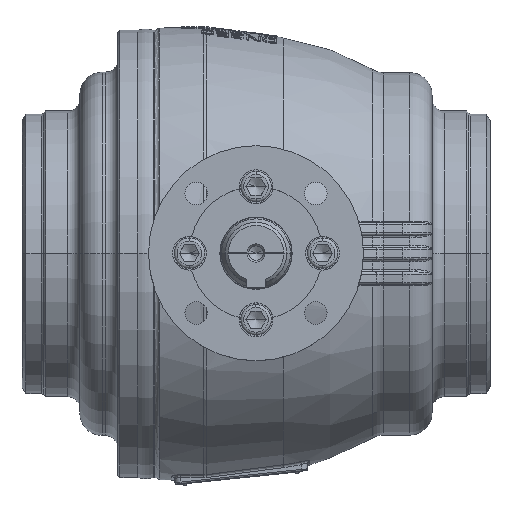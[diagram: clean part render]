
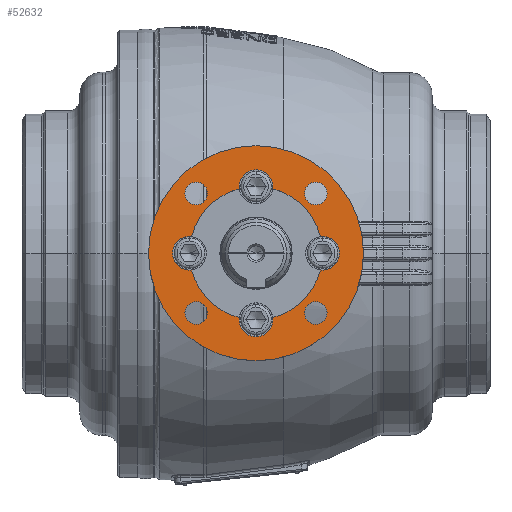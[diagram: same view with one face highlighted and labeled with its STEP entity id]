
A CAD part, top view. The second image highlights one B-rep face of the part: STEP entity #52632.
In plain terms, the highlighted planar face has unit normal (0, 0, 1).
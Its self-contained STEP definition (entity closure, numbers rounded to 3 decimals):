
#7257=CARTESIAN_POINT('',(0.,0.,346.));
#7258=DIRECTION('',(0.,0.,1.));
#7259=DIRECTION('',(1.,0.,0.));
#7260=AXIS2_PLACEMENT_3D('',#7257,#7258,#7259);
#7262=CARTESIAN_POINT('',(0.,0.,346.));
#7263=DIRECTION('',(0.,0.,-1.));
#7264=DIRECTION('',(1.,0.,0.));
#7265=AXIS2_PLACEMENT_3D('',#7262,#7263,#7264);
#7267=CARTESIAN_POINT('',(0.,65.,346.));
#7268=DIRECTION('',(0.,0.,-1.));
#7269=DIRECTION('',(1.,0.,0.));
#7270=AXIS2_PLACEMENT_3D('',#7267,#7268,#7269);
#7272=CARTESIAN_POINT('',(0.,65.,346.));
#7273=DIRECTION('',(0.,0.,-1.));
#7274=DIRECTION('',(-1.,0.,0.));
#7275=AXIS2_PLACEMENT_3D('',#7272,#7273,#7274);
#7277=CARTESIAN_POINT('',(0.,65.,346.));
#7278=DIRECTION('',(0.,0.,-1.));
#7279=DIRECTION('',(-0.992,-0.127,0.));
#7280=AXIS2_PLACEMENT_3D('',#7277,#7278,#7279);
#7282=CARTESIAN_POINT('',(-65.,0.,346.));
#7283=DIRECTION('',(0.,0.,-1.));
#7284=DIRECTION('',(-1.,0.,0.));
#7285=AXIS2_PLACEMENT_3D('',#7282,#7283,#7284);
#7287=CARTESIAN_POINT('',(-65.,0.,346.));
#7288=DIRECTION('',(0.,0.,-1.));
#7289=DIRECTION('',(0.127,-0.992,0.));
#7290=AXIS2_PLACEMENT_3D('',#7287,#7288,#7289);
#7292=CARTESIAN_POINT('',(0.,-65.,346.));
#7293=DIRECTION('',(0.,0.,-1.));
#7294=DIRECTION('',(-1.,0.,0.));
#7295=AXIS2_PLACEMENT_3D('',#7292,#7293,#7294);
#7297=CARTESIAN_POINT('',(0.,-65.,346.));
#7298=DIRECTION('',(0.,0.,-1.));
#7299=DIRECTION('',(1.,0.,0.));
#7300=AXIS2_PLACEMENT_3D('',#7297,#7298,#7299);
#7302=CARTESIAN_POINT('',(0.,-65.,346.));
#7303=DIRECTION('',(0.,0.,-1.));
#7304=DIRECTION('',(0.992,0.127,0.));
#7305=AXIS2_PLACEMENT_3D('',#7302,#7303,#7304);
#7307=CARTESIAN_POINT('',(65.,0.,346.));
#7308=DIRECTION('',(0.,0.,-1.));
#7309=DIRECTION('',(1.,0.,0.));
#7310=AXIS2_PLACEMENT_3D('',#7307,#7308,#7309);
#7312=CARTESIAN_POINT('',(65.,0.,346.));
#7313=DIRECTION('',(0.,0.,-1.));
#7314=DIRECTION('',(-0.127,0.992,0.));
#7315=AXIS2_PLACEMENT_3D('',#7312,#7313,#7314);
#7317=CARTESIAN_POINT('',(-58.336,-58.336,346.));
#7318=DIRECTION('',(0.,0.,1.));
#7319=DIRECTION('',(-1.,0.,0.));
#7320=AXIS2_PLACEMENT_3D('',#7317,#7318,#7319);
#7322=CARTESIAN_POINT('',(-58.336,-58.336,346.));
#7323=DIRECTION('',(0.,0.,1.));
#7324=DIRECTION('',(1.,0.,0.));
#7325=AXIS2_PLACEMENT_3D('',#7322,#7323,#7324);
#7327=CARTESIAN_POINT('',(58.336,-58.336,346.));
#7328=DIRECTION('',(0.,0.,1.));
#7329=DIRECTION('',(-1.,0.,0.));
#7330=AXIS2_PLACEMENT_3D('',#7327,#7328,#7329);
#7332=CARTESIAN_POINT('',(58.336,-58.336,346.));
#7333=DIRECTION('',(0.,0.,1.));
#7334=DIRECTION('',(1.,0.,0.));
#7335=AXIS2_PLACEMENT_3D('',#7332,#7333,#7334);
#7337=CARTESIAN_POINT('',(58.336,58.336,346.));
#7338=DIRECTION('',(0.,0.,1.));
#7339=DIRECTION('',(-1.,0.,0.));
#7340=AXIS2_PLACEMENT_3D('',#7337,#7338,#7339);
#7342=CARTESIAN_POINT('',(58.336,58.336,346.));
#7343=DIRECTION('',(0.,0.,1.));
#7344=DIRECTION('',(1.,0.,0.));
#7345=AXIS2_PLACEMENT_3D('',#7342,#7343,#7344);
#7347=CARTESIAN_POINT('',(-58.336,58.336,346.));
#7348=DIRECTION('',(0.,0.,1.));
#7349=DIRECTION('',(-1.,0.,0.));
#7350=AXIS2_PLACEMENT_3D('',#7347,#7348,#7349);
#7352=CARTESIAN_POINT('',(-58.336,58.336,346.));
#7353=DIRECTION('',(0.,0.,1.));
#7354=DIRECTION('',(1.,0.,0.));
#7355=AXIS2_PLACEMENT_3D('',#7352,#7353,#7354);
#29853=CARTESIAN_POINT('',(0.,0.,346.));
#29854=DIRECTION('',(0.,0.,-1.));
#29855=DIRECTION('',(-0.968,0.252,0.));
#29856=AXIS2_PLACEMENT_3D('',#29853,#29854,#29855);
#30224=CARTESIAN_POINT('',(0.,0.,346.));
#30225=DIRECTION('',(0.,0.,-1.));
#30226=DIRECTION('',(-0.252,-0.968,0.));
#30227=AXIS2_PLACEMENT_3D('',#30224,#30225,#30226);
#30250=CARTESIAN_POINT('',(0.,0.,346.));
#30251=DIRECTION('',(0.,0.,-1.));
#30252=DIRECTION('',(0.968,-0.252,0.));
#30253=AXIS2_PLACEMENT_3D('',#30250,#30251,#30252);
#30630=CARTESIAN_POINT('',(0.,0.,346.));
#30631=DIRECTION('',(0.,0.,-1.));
#30632=DIRECTION('',(0.252,0.968,0.));
#30633=AXIS2_PLACEMENT_3D('',#30630,#30631,#30632);
#34362=CARTESIAN_POINT('',(105.,0.,346.));
#34364=VERTEX_POINT('',#34362);
#34366=CARTESIAN_POINT('',(-105.,0.,346.));
#34368=VERTEX_POINT('',#34366);
#34393=CARTESIAN_POINT('',(-62.906,-16.367,346.));
#34394=CARTESIAN_POINT('',(-81.5,0.,346.));
#34395=VERTEX_POINT('',#34393);
#34396=VERTEX_POINT('',#34394);
#34397=CARTESIAN_POINT('',(-62.906,16.367,346.));
#34398=VERTEX_POINT('',#34397);
#34409=CARTESIAN_POINT('',(16.5,-65.,346.));
#34410=CARTESIAN_POINT('',(-16.5,-65.,346.));
#34411=VERTEX_POINT('',#34409);
#34412=VERTEX_POINT('',#34410);
#34413=CARTESIAN_POINT('',(-16.367,-62.906,346.));
#34414=VERTEX_POINT('',#34413);
#34415=CARTESIAN_POINT('',(16.367,-62.906,346.));
#34416=VERTEX_POINT('',#34415);
#34425=CARTESIAN_POINT('',(81.5,0.,346.));
#34426=CARTESIAN_POINT('',(62.906,-16.367,346.));
#34427=VERTEX_POINT('',#34425);
#34428=VERTEX_POINT('',#34426);
#34429=CARTESIAN_POINT('',(62.906,16.367,346.));
#34430=VERTEX_POINT('',#34429);
#34441=CARTESIAN_POINT('',(16.5,65.,346.));
#34442=CARTESIAN_POINT('',(16.367,62.906,346.));
#34443=VERTEX_POINT('',#34441);
#34444=VERTEX_POINT('',#34442);
#34445=CARTESIAN_POINT('',(-16.367,62.906,346.));
#34446=CARTESIAN_POINT('',(-16.5,65.,346.));
#34447=VERTEX_POINT('',#34445);
#34448=VERTEX_POINT('',#34446);
#34465=CARTESIAN_POINT('',(-69.336,-58.336,346.));
#34466=CARTESIAN_POINT('',(-47.336,-58.336,346.));
#34467=VERTEX_POINT('',#34465);
#34468=VERTEX_POINT('',#34466);
#34481=CARTESIAN_POINT('',(47.336,-58.336,346.));
#34482=CARTESIAN_POINT('',(69.336,-58.336,346.));
#34483=VERTEX_POINT('',#34481);
#34484=VERTEX_POINT('',#34482);
#34497=CARTESIAN_POINT('',(47.336,58.336,346.));
#34498=CARTESIAN_POINT('',(69.336,58.336,346.));
#34499=VERTEX_POINT('',#34497);
#34500=VERTEX_POINT('',#34498);
#34513=CARTESIAN_POINT('',(-69.336,58.336,346.));
#34514=CARTESIAN_POINT('',(-47.336,58.336,346.));
#34515=VERTEX_POINT('',#34513);
#34516=VERTEX_POINT('',#34514);
#52569=CARTESIAN_POINT('',(0.,0.,346.));
#52570=DIRECTION('',(0.,0.,1.));
#52571=DIRECTION('',(1.,0.,0.));
#52572=AXIS2_PLACEMENT_3D('',#52569,#52570,#52571);
#52573=PLANE('',#52572);
#52575=ORIENTED_EDGE('',*,*,#52574,.F.);
#52577=ORIENTED_EDGE('',*,*,#52576,.T.);
#52578=EDGE_LOOP('',(#52575,#52577));
#52579=FACE_OUTER_BOUND('',#52578,.F.);
#52580=ORIENTED_EDGE('',*,*,#52551,.F.);
#52582=ORIENTED_EDGE('',*,*,#52581,.F.);
#52583=ORIENTED_EDGE('',*,*,#52558,.F.);
#52585=ORIENTED_EDGE('',*,*,#52584,.F.);
#52587=ORIENTED_EDGE('',*,*,#52586,.F.);
#52589=ORIENTED_EDGE('',*,*,#52588,.F.);
#52591=ORIENTED_EDGE('',*,*,#52590,.F.);
#52593=ORIENTED_EDGE('',*,*,#52592,.F.);
#52595=ORIENTED_EDGE('',*,*,#52594,.F.);
#52597=ORIENTED_EDGE('',*,*,#52596,.F.);
#52599=ORIENTED_EDGE('',*,*,#52598,.F.);
#52601=ORIENTED_EDGE('',*,*,#52600,.F.);
#52603=ORIENTED_EDGE('',*,*,#52602,.F.);
#52605=ORIENTED_EDGE('',*,*,#52604,.F.);
#52606=EDGE_LOOP('',(#52580,#52582,#52583,#52585,#52587,#52589,#52591,#52593,
#52595,#52597,#52599,#52601,#52603,#52605));
#52607=FACE_BOUND('',#52606,.F.);
#52609=ORIENTED_EDGE('',*,*,#52608,.T.);
#52611=ORIENTED_EDGE('',*,*,#52610,.T.);
#52612=EDGE_LOOP('',(#52609,#52611));
#52613=FACE_BOUND('',#52612,.F.);
#52615=ORIENTED_EDGE('',*,*,#52614,.T.);
#52617=ORIENTED_EDGE('',*,*,#52616,.T.);
#52618=EDGE_LOOP('',(#52615,#52617));
#52619=FACE_BOUND('',#52618,.F.);
#52621=ORIENTED_EDGE('',*,*,#52620,.T.);
#52623=ORIENTED_EDGE('',*,*,#52622,.T.);
#52624=EDGE_LOOP('',(#52621,#52623));
#52625=FACE_BOUND('',#52624,.F.);
#52627=ORIENTED_EDGE('',*,*,#52626,.T.);
#52629=ORIENTED_EDGE('',*,*,#52628,.T.);
#52630=EDGE_LOOP('',(#52627,#52629));
#52631=FACE_BOUND('',#52630,.F.);
#52632=ADVANCED_FACE('',(#52579,#52607,#52613,#52619,#52625,#52631),#52573,.T.);
#7261=CIRCLE('',#7260,105.);
#7266=CIRCLE('',#7265,105.);
#7271=CIRCLE('',#7270,16.5);
#7276=CIRCLE('',#7275,16.5);
#7281=CIRCLE('',#7280,16.5);
#7286=CIRCLE('',#7285,16.5);
#7291=CIRCLE('',#7290,16.5);
#7296=CIRCLE('',#7295,16.5);
#7301=CIRCLE('',#7300,16.5);
#7306=CIRCLE('',#7305,16.5);
#7311=CIRCLE('',#7310,16.5);
#7316=CIRCLE('',#7315,16.5);
#7321=CIRCLE('',#7320,11.);
#7326=CIRCLE('',#7325,11.);
#7331=CIRCLE('',#7330,11.);
#7336=CIRCLE('',#7335,11.);
#7341=CIRCLE('',#7340,11.);
#7346=CIRCLE('',#7345,11.);
#7351=CIRCLE('',#7350,11.);
#7356=CIRCLE('',#7355,11.);
#29857=CIRCLE('',#29856,65.);
#30228=CIRCLE('',#30227,65.);
#30254=CIRCLE('',#30253,65.);
#30634=CIRCLE('',#30633,65.);
#52551=EDGE_CURVE('',#34443,#34444,#7271,.T.);
#52558=EDGE_CURVE('',#34447,#34448,#7281,.T.);
#52574=EDGE_CURVE('',#34364,#34368,#7261,.T.);
#52576=EDGE_CURVE('',#34364,#34368,#7266,.T.);
#52581=EDGE_CURVE('',#34448,#34443,#7276,.T.);
#52584=EDGE_CURVE('',#34398,#34447,#29857,.T.);
#52586=EDGE_CURVE('',#34396,#34398,#7286,.T.);
#52588=EDGE_CURVE('',#34395,#34396,#7291,.T.);
#52590=EDGE_CURVE('',#34414,#34395,#30228,.T.);
#52592=EDGE_CURVE('',#34412,#34414,#7296,.T.);
#52594=EDGE_CURVE('',#34411,#34412,#7301,.T.);
#52596=EDGE_CURVE('',#34416,#34411,#7306,.T.);
#52598=EDGE_CURVE('',#34428,#34416,#30254,.T.);
#52600=EDGE_CURVE('',#34427,#34428,#7311,.T.);
#52602=EDGE_CURVE('',#34430,#34427,#7316,.T.);
#52604=EDGE_CURVE('',#34444,#34430,#30634,.T.);
#52608=EDGE_CURVE('',#34467,#34468,#7321,.T.);
#52610=EDGE_CURVE('',#34468,#34467,#7326,.T.);
#52614=EDGE_CURVE('',#34483,#34484,#7331,.T.);
#52616=EDGE_CURVE('',#34484,#34483,#7336,.T.);
#52620=EDGE_CURVE('',#34499,#34500,#7341,.T.);
#52622=EDGE_CURVE('',#34500,#34499,#7346,.T.);
#52626=EDGE_CURVE('',#34515,#34516,#7351,.T.);
#52628=EDGE_CURVE('',#34516,#34515,#7356,.T.);
